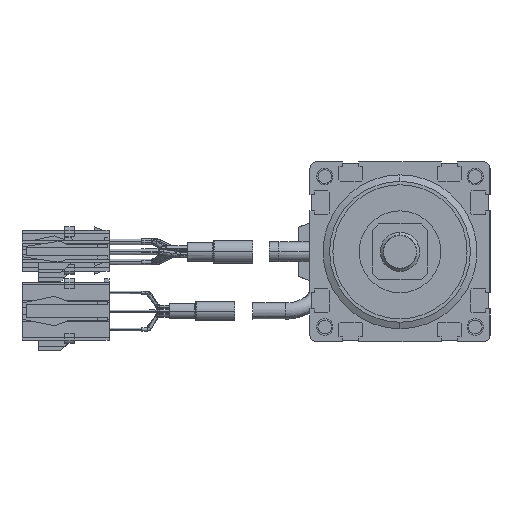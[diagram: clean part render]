
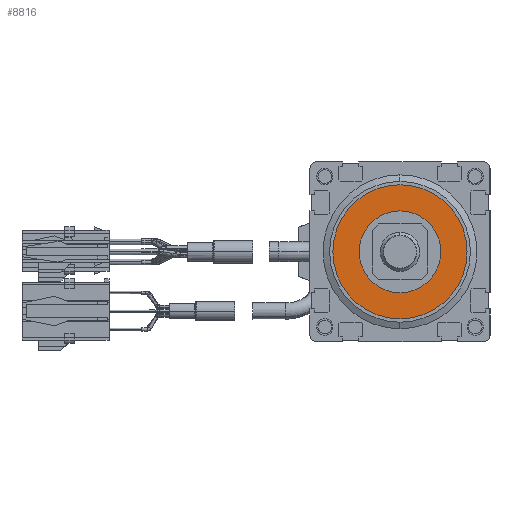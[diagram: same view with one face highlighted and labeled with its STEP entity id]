
A CAD part, left-side view. The second image highlights one B-rep face of the part: STEP entity #8816.
In plain terms, the highlighted planar face has unit normal (-1, 0, 0).
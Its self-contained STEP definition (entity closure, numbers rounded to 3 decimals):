
#2322=CARTESIAN_POINT('',(-391.,0.,0.));
#2323=DIRECTION('',(1.,0.,0.));
#2324=DIRECTION('',(0.,1.,0.));
#2325=AXIS2_PLACEMENT_3D('',#2322,#2323,#2324);
#2327=CARTESIAN_POINT('',(-391.,0.,0.));
#2328=DIRECTION('',(1.,0.,0.));
#2329=DIRECTION('',(0.,-1.,0.));
#2330=AXIS2_PLACEMENT_3D('',#2327,#2328,#2329);
#2332=CARTESIAN_POINT('',(-391.,0.,0.));
#2333=DIRECTION('',(-1.,0.,0.));
#2334=DIRECTION('',(0.,0.,1.));
#2335=AXIS2_PLACEMENT_3D('',#2332,#2333,#2334);
#2337=CARTESIAN_POINT('',(-391.,0.,0.));
#2338=DIRECTION('',(-1.,0.,0.));
#2339=DIRECTION('',(0.,0.,-1.));
#2340=AXIS2_PLACEMENT_3D('',#2337,#2338,#2339);
#4281=CARTESIAN_POINT('',(-391.,20.5,0.));
#4282=VERTEX_POINT('',#4281);
#4283=CARTESIAN_POINT('',(-391.,-20.5,0.));
#4284=VERTEX_POINT('',#4283);
#5447=CARTESIAN_POINT('',(-391.,0.,12.5));
#5448=CARTESIAN_POINT('',(-391.,0.,-12.5));
#5449=VERTEX_POINT('',#5447);
#5450=VERTEX_POINT('',#5448);
#8801=CARTESIAN_POINT('',(-391.,0.,0.));
#8802=DIRECTION('',(1.,0.,0.));
#8803=DIRECTION('',(0.,1.,0.));
#8804=AXIS2_PLACEMENT_3D('',#8801,#8802,#8803);
#8805=PLANE('',#8804);
#8806=ORIENTED_EDGE('',*,*,#8781,.T.);
#8807=ORIENTED_EDGE('',*,*,#8795,.T.);
#8808=EDGE_LOOP('',(#8806,#8807));
#8809=FACE_OUTER_BOUND('',#8808,.F.);
#8811=ORIENTED_EDGE('',*,*,#8810,.T.);
#8813=ORIENTED_EDGE('',*,*,#8812,.T.);
#8814=EDGE_LOOP('',(#8811,#8813));
#8815=FACE_BOUND('',#8814,.F.);
#8816=ADVANCED_FACE('',(#8809,#8815),#8805,.F.);
#2326=CIRCLE('',#2325,20.5);
#2331=CIRCLE('',#2330,20.5);
#2336=CIRCLE('',#2335,12.5);
#2341=CIRCLE('',#2340,12.5);
#8781=EDGE_CURVE('',#4282,#4284,#2326,.T.);
#8795=EDGE_CURVE('',#4284,#4282,#2331,.T.);
#8810=EDGE_CURVE('',#5449,#5450,#2336,.T.);
#8812=EDGE_CURVE('',#5450,#5449,#2341,.T.);
